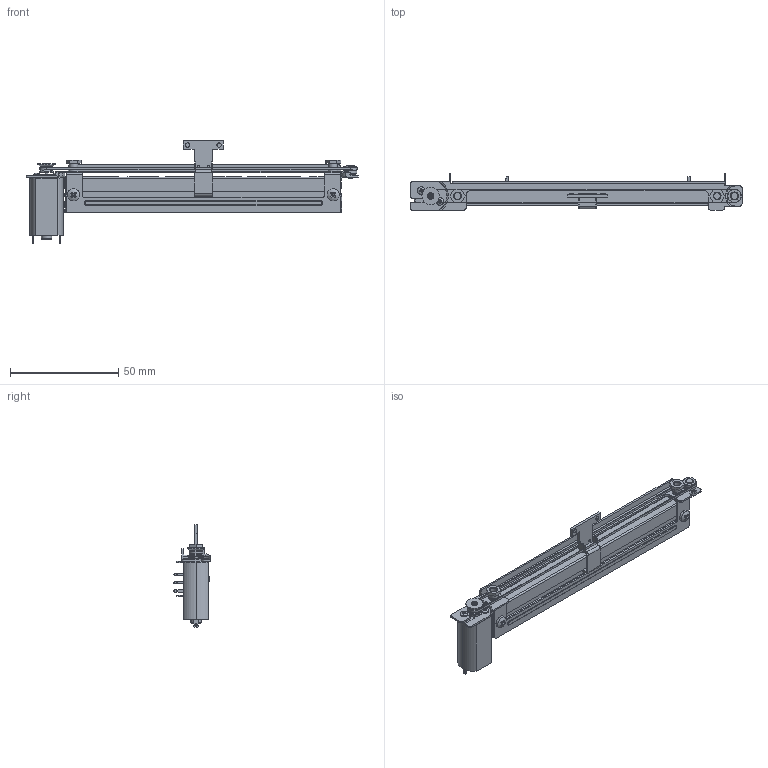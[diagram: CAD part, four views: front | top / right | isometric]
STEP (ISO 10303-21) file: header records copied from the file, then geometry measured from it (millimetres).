
FILE_DESCRIPTION(('FreeCAD Model'),'2;1');
FILE_NAME('Open CASCADE Shape Model','2023-03-16T10:17:20',(''),(''), 'Open CASCADE STEP processor 7.6','FreeCAD','Unknown');
FILE_SCHEMA(('AUTOMOTIVE_DESIGN { 1 0 10303 214 1 1 1 1 }'));
Length unit declared in the file: millimetre
Products named in the file (1): Fusion052006
Bounding box: 153.5 x 16.7 x 47.4 mm (x, y, z)
Volume: 25046.2 mm3; surface area: 22829.1 mm2
Topology: 5 solids, 14 shells, 1355 faces, 3380 edges, 2074 vertices
Faces by surface type: plane 946, cylinder 326, cone 41, torus 35, sphere 4, bspline 3
Full cylindrical faces by diameter (mm): 0.5 x15, 1.2 x6, 1.25 x2, 1.3 x1, 1.5 x4, 2 x9, 2.5 x2, 3 x16, 3.2 x4, 3.5 x4, 3.7 x1, 4 x2, 4.5 x2, 4.7 x2, 5 x2, 5.38 x1, 5.6 x2, 6 x2, 6.5 x1, 8 x1
Entity records: 92050 total; most frequent: CARTESIAN_POINT 20202, DIRECTION 11131, ORIENTED_EDGE 7108, PCURVE 6752, DEFINITIONAL_REPRESENTATION 6752, LINE 6190, VECTOR 6190, EDGE_CURVE 3376
